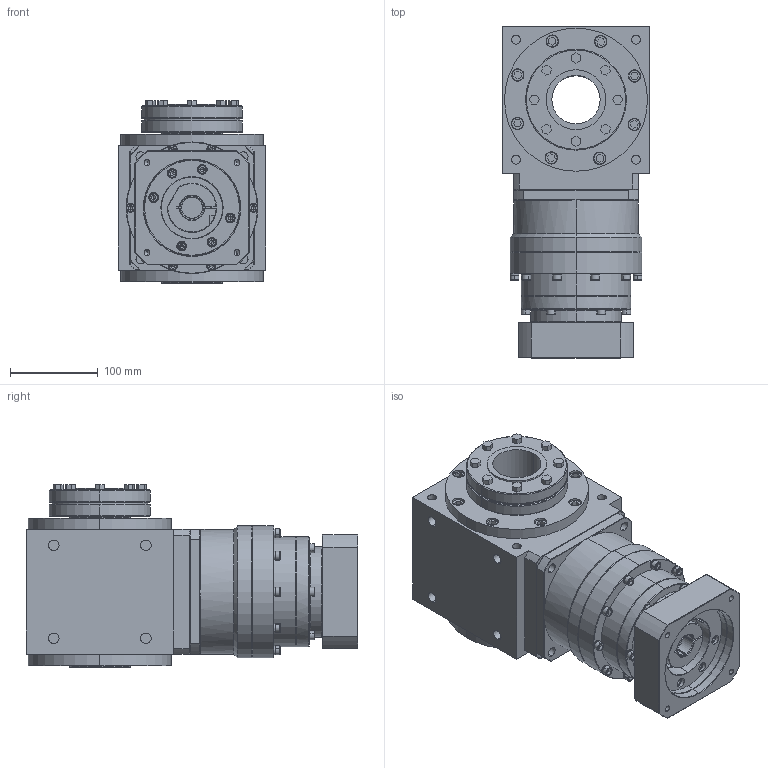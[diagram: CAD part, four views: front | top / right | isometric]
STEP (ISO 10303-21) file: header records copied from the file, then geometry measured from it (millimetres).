
FILE_DESCRIPTION (( 'STEP AP203' ), '1' );
FILE_NAME ('AAW165AS-L2-RFHP 24-110-145-M8.STEP', '2024-12-24T08:37:58', ( '' ), ( '' ), 'SwSTEP 2.0', 'SolidWorks 2021', '' );
FILE_SCHEMA (( 'CONFIG_CONTROL_DESIGN' ));
Length unit declared in the file: millimetre
Products named in the file (3): KS142L2-110-24-62-M8-145俋倛芞; AAW165AS-L2-RFHP 24-110-145-M8; AAW165AS-RFHP
Assembly tree (2 placements, depth 2):
  AAW165AS-L2-RFHP 24-110-145-M8
    AAW165AS-RFHP
    KS142L2-110-24-62-M8-145俋倛芞
Bounding box: 168 x 378 x 208 mm (x, y, z)
Volume: 7330105.6 mm3; surface area: 546691.8 mm2
Topology: 52 solids, 52 shells, 1574 faces, 3718 edges, 2327 vertices
Faces by surface type: plane 789, cylinder 518, cone 209, bspline 46, torus 12
Entity records: 47351 total; most frequent: CARTESIAN_POINT 10693, DIRECTION 7922, ORIENTED_EDGE 7272, EDGE_CURVE 3636, AXIS2_PLACEMENT_3D 3006, VERTEX_POINT 2327, VECTOR 1910, LINE 1910
